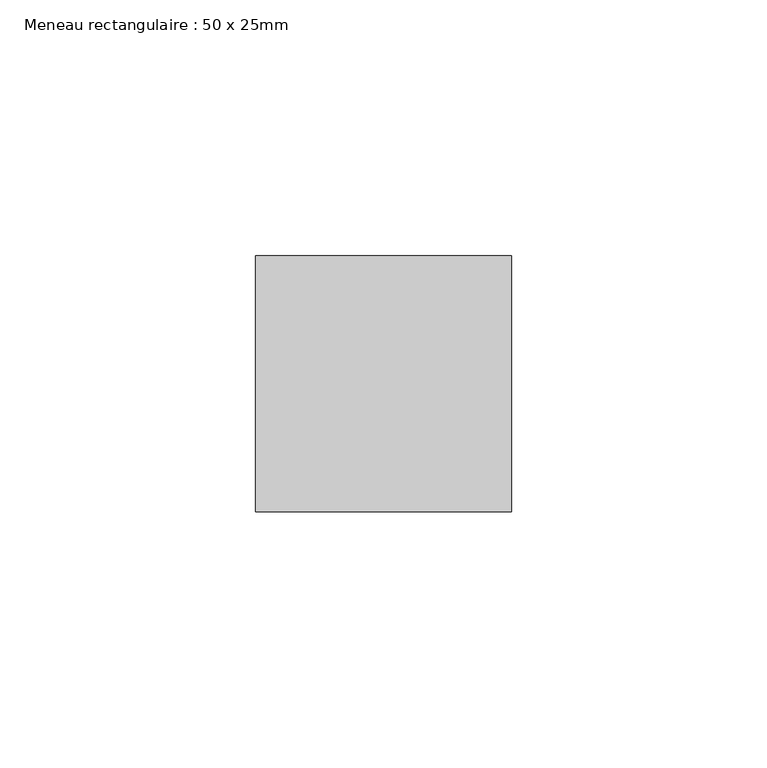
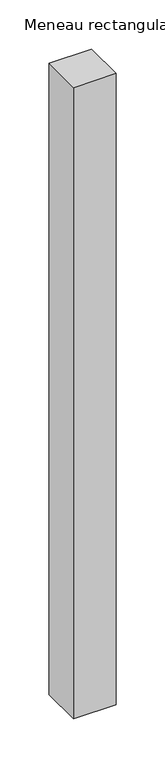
"""IFC4 building model written with IfcOpenShell, lengths in millimetres: member geometry, Meneau rectangulaire : 50 x 25mm."""

from ifc_helpers import new_model, si_unit, frame, origin, place, context, project, spatial, polyline, outline, extrude, source, transform, mapped, element, save


def meneau_rectangulaire_50_x_25mm_f1d77d34(model_context):
    return source(origin(), model_context, "Body", "SweptSolid", [
        extrude(outline(polyline([(25.0, 0.0), (25.0, -50.0), (-25.0, -50.0), (-25.0, 0.0), (25.0, 0.0)])), frame((0.0, 0.0, -785.0), z_axis=(0.0, 0.0, 1.0), x_axis=(1.0, 0.0, 0.0)), (0.0, 0.0, 1.0), 785.0),
    ])


if __name__ == "__main__":
    model = new_model("IFC4")
    model_context = context("Model", 3, world=origin())
    ifc_project = project(units=[si_unit("LENGTHUNIT", "METRE", prefix="MILLI")], contexts=[model_context])
    site = spatial("IfcSite", under=ifc_project)
    building = spatial("IfcBuilding", under=site)
    placement = place(None, origin())
    meneau_rectangulaire_50_x_25mm_shape = meneau_rectangulaire_50_x_25mm_f1d77d34(model_context)
    element("IfcMember", 1, ObjectType="Meneau rectangulaire : 50 x 25mm", at=placement, inside=building, context=model_context, shape_type="MappedRepresentation", body=[
        mapped(meneau_rectangulaire_50_x_25mm_shape, transform((0.0, 0.0, 0.0), x_axis=(1.0, 0.0, 0.0), y_axis=(0.0, 1.0, 0.0), z_axis=(0.0, 0.0, 1.0))),
    ])
    save(model, "model.ifc")
